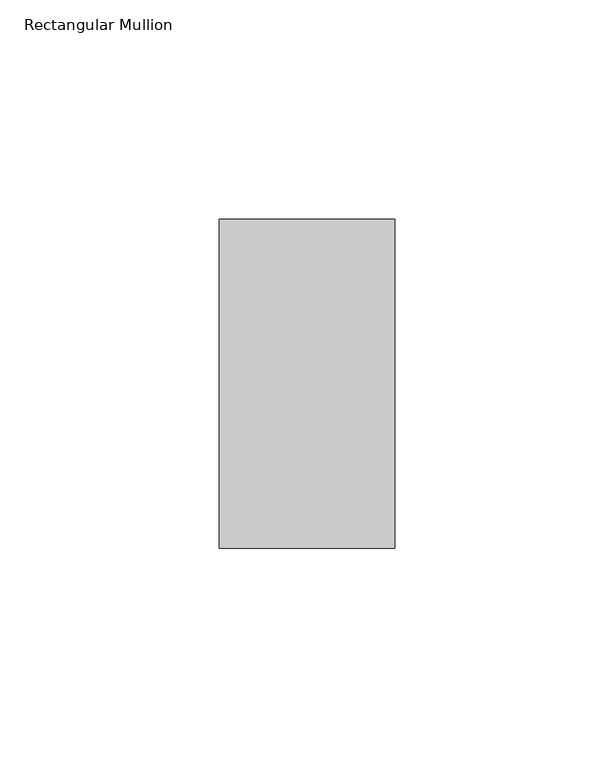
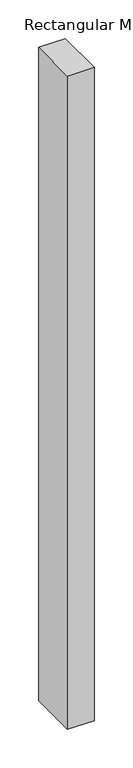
"""IFC4 building model written with IfcOpenShell, lengths in millimetres: member geometry, Rectangular Mullion : 22_IM_VNS_DET1_boven."""

from ifc_helpers import new_model, si_unit, frame, origin, place, context, project, spatial, polyline, outline, extrude, source, transform, mapped, element, save


def rectangular_mullion_594e154f(model_context):
    return source(origin(), model_context, "Body", "SweptSolid", [
        extrude(outline(polyline([(0.0, 37.5), (0.0, -37.5), (-40.0, -37.5), (-40.0, 37.5), (0.0, 37.5)])), frame((0.0, 0.0, -1036.0), z_axis=(0.0, 0.0, 1.0), x_axis=(1.0, 0.0, 0.0)), (0.0, 0.0, 1.0), 1036.0),
    ])


if __name__ == "__main__":
    model = new_model("IFC4")
    model_context = context("Model", 3, world=origin())
    ifc_project = project(units=[si_unit("LENGTHUNIT", "METRE", prefix="MILLI")], contexts=[model_context])
    site = spatial("IfcSite", under=ifc_project)
    building = spatial("IfcBuilding", under=site)
    placement = place(None, origin())
    rectangular_mullion_shape = rectangular_mullion_594e154f(model_context)
    element("IfcMember", 1, ObjectType="Rectangular Mullion : 22_IM_VNS_DET1_boven", at=placement, inside=building, context=model_context, shape_type="MappedRepresentation", body=[
        mapped(rectangular_mullion_shape, transform((0.0, 0.0, 0.0), x_axis=(1.0, 0.0, 0.0), y_axis=(0.0, 1.0, 0.0), z_axis=(0.0, 0.0, 1.0))),
    ])
    save(model, "model.ifc")
